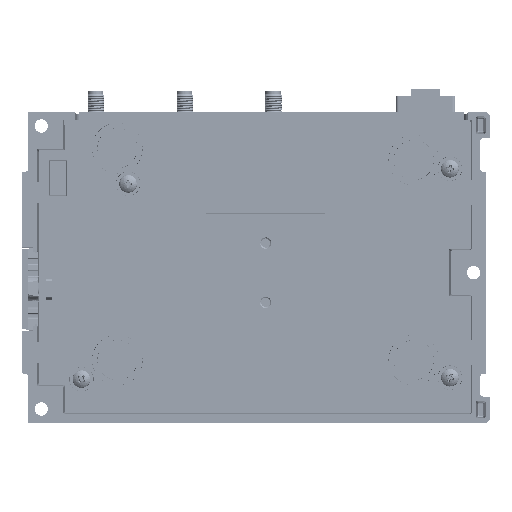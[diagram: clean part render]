
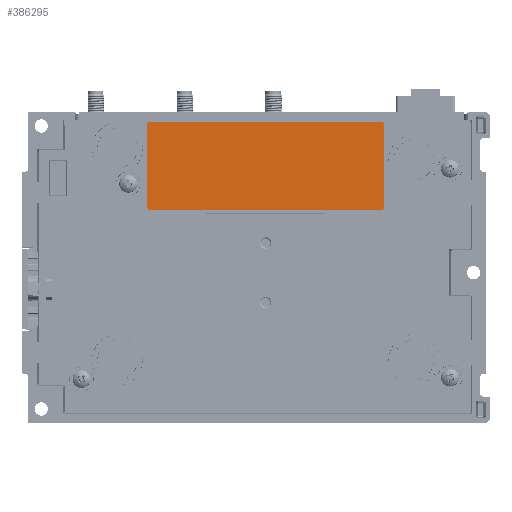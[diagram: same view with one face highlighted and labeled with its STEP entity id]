
A CAD part, front view. The second image highlights one B-rep face of the part: STEP entity #386295.
In plain terms, the highlighted planar face has unit normal (0, -1, 0).
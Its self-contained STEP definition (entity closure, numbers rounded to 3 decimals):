
#2189 = DIRECTION ( 'NONE',  ( 0., 1., 0. ) ) ;
#3839 = DIRECTION ( 'NONE',  ( 0., -1., 0. ) ) ;
#6524 = CARTESIAN_POINT ( 'NONE',  ( -38.735, 0., 14.986 ) ) ;
#51199 = EDGE_CURVE ( 'NONE', #201837, #684713, #69382, .T. ) ;
#64244 = CARTESIAN_POINT ( 'NONE',  ( -40.005, 0., -13.716 ) ) ;
#69382 = LINE ( 'NONE', #6524, #643809 ) ;
#85264 = EDGE_CURVE ( 'NONE', #684713, #331601, #790182, .T. ) ;
#93018 = ORIENTED_EDGE ( 'NONE', *, *, #322421, .F. ) ;
#96961 = LINE ( 'NONE', #518037, #227383 ) ;
#105506 = CARTESIAN_POINT ( 'NONE',  ( -38.735, 0., 14.986 ) ) ;
#114481 = CARTESIAN_POINT ( 'NONE',  ( -38.735, 0., -13.716 ) ) ;
#115284 = CARTESIAN_POINT ( 'NONE',  ( 38.735, 0., 13.716 ) ) ;
#124128 = DIRECTION ( 'NONE',  ( 0., 1., 0. ) ) ;
#130471 = AXIS2_PLACEMENT_3D ( 'NONE', #290490, #3839, #694015 ) ;
#135596 = CARTESIAN_POINT ( 'NONE',  ( 40.005, 0., -13.716 ) ) ;
#201837 = VERTEX_POINT ( 'NONE', #105506 ) ;
#209992 = PLANE ( 'NONE',  #130471 ) ;
#224053 = ORIENTED_EDGE ( 'NONE', *, *, #424526, .F. ) ;
#227383 = VECTOR ( 'NONE', #298696, 1000. ) ;
#238305 = VERTEX_POINT ( 'NONE', #703020 ) ;
#245108 = CARTESIAN_POINT ( 'NONE',  ( -38.735, 0., -14.986 ) ) ;
#254163 = DIRECTION ( 'NONE',  ( 0., 0., 1. ) ) ;
#266420 = ORIENTED_EDGE ( 'NONE', *, *, #85264, .F. ) ;
#272828 = FACE_OUTER_BOUND ( 'NONE', #459537, .T. ) ;
#272972 = CIRCLE ( 'NONE', #330033, 1.27 ) ;
#275558 = DIRECTION ( 'NONE',  ( 0., 0., -1. ) ) ;
#290490 = CARTESIAN_POINT ( 'NONE',  ( 38.735, 0., -13.716 ) ) ;
#298696 = DIRECTION ( 'NONE',  ( 0., 0., 1. ) ) ;
#308059 = DIRECTION ( 'NONE',  ( -1., 0., 0. ) ) ;
#322421 = EDGE_CURVE ( 'NONE', #352025, #529645, #96961, .T. ) ;
#330033 = AXIS2_PLACEMENT_3D ( 'NONE', #527549, #388715, #801006 ) ;
#330795 = CARTESIAN_POINT ( 'NONE',  ( 40.005, 0., 13.716 ) ) ;
#331601 = VERTEX_POINT ( 'NONE', #330795 ) ;
#336339 = CARTESIAN_POINT ( 'NONE',  ( -38.735, 0., -14.986 ) ) ;
#352025 = VERTEX_POINT ( 'NONE', #64244 ) ;
#356246 = ORIENTED_EDGE ( 'NONE', *, *, #395895, .F. ) ;
#370826 = EDGE_CURVE ( 'NONE', #238305, #688481, #581402, .T. ) ;
#384209 = ORIENTED_EDGE ( 'NONE', *, *, #51199, .F. ) ;
#386295 = ADVANCED_FACE ( 'NONE', ( #272828 ), #209992, .T. ) ;
#387940 = DIRECTION ( 'NONE',  ( 0., 0., 1. ) ) ;
#388715 = DIRECTION ( 'NONE',  ( 0., 1., 0. ) ) ;
#395895 = EDGE_CURVE ( 'NONE', #331601, #692029, #404617, .T. ) ;
#404617 = LINE ( 'NONE', #135596, #781023 ) ;
#414608 = CIRCLE ( 'NONE', #657784, 1.27 ) ;
#424526 = EDGE_CURVE ( 'NONE', #692029, #238305, #579354, .T. ) ;
#445515 = EDGE_CURVE ( 'NONE', #529645, #201837, #272972, .T. ) ;
#459537 = EDGE_LOOP ( 'NONE', ( #224053, #356246, #266420, #384209, #631073, #93018, #686271, #681655 ) ) ;
#476036 = CARTESIAN_POINT ( 'NONE',  ( 38.735, 0., 14.986 ) ) ;
#510973 = CARTESIAN_POINT ( 'NONE',  ( 40.005, 0., -13.716 ) ) ;
#518037 = CARTESIAN_POINT ( 'NONE',  ( -40.005, 0., -13.716 ) ) ;
#524639 = EDGE_CURVE ( 'NONE', #688481, #352025, #414608, .T. ) ;
#527549 = CARTESIAN_POINT ( 'NONE',  ( -38.735, 0., 13.716 ) ) ;
#529645 = VERTEX_POINT ( 'NONE', #712421 ) ;
#536601 = VECTOR ( 'NONE', #308059, 1000. ) ;
#576405 = DIRECTION ( 'NONE',  ( 0., 1., 0. ) ) ;
#579354 = CIRCLE ( 'NONE', #737422, 1.27 ) ;
#581402 = LINE ( 'NONE', #245108, #536601 ) ;
#616222 = DIRECTION ( 'NONE',  ( 1., 0., 0. ) ) ;
#631073 = ORIENTED_EDGE ( 'NONE', *, *, #445515, .F. ) ;
#643809 = VECTOR ( 'NONE', #616222, 1000. ) ;
#657784 = AXIS2_PLACEMENT_3D ( 'NONE', #114481, #576405, #387940 ) ;
#681655 = ORIENTED_EDGE ( 'NONE', *, *, #370826, .F. ) ;
#684713 = VERTEX_POINT ( 'NONE', #476036 ) ;
#686271 = ORIENTED_EDGE ( 'NONE', *, *, #524639, .F. ) ;
#688481 = VERTEX_POINT ( 'NONE', #336339 ) ;
#692029 = VERTEX_POINT ( 'NONE', #510973 ) ;
#694015 = DIRECTION ( 'NONE',  ( 0., 0., -1. ) ) ;
#703020 = CARTESIAN_POINT ( 'NONE',  ( 38.735, 0., -14.986 ) ) ;
#712421 = CARTESIAN_POINT ( 'NONE',  ( -40.005, 0., 13.716 ) ) ;
#737422 = AXIS2_PLACEMENT_3D ( 'NONE', #831231, #2189, #275558 ) ;
#781023 = VECTOR ( 'NONE', #812500, 1000. ) ;
#790182 = CIRCLE ( 'NONE', #875988, 1.27 ) ;
#801006 = DIRECTION ( 'NONE',  ( 0., 0., 1. ) ) ;
#812500 = DIRECTION ( 'NONE',  ( 0., 0., -1. ) ) ;
#831231 = CARTESIAN_POINT ( 'NONE',  ( 38.735, 0., -13.716 ) ) ;
#875988 = AXIS2_PLACEMENT_3D ( 'NONE', #115284, #124128, #254163 ) ;
